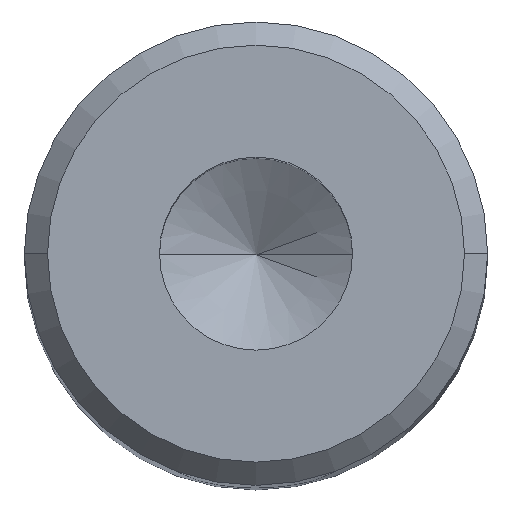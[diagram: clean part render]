
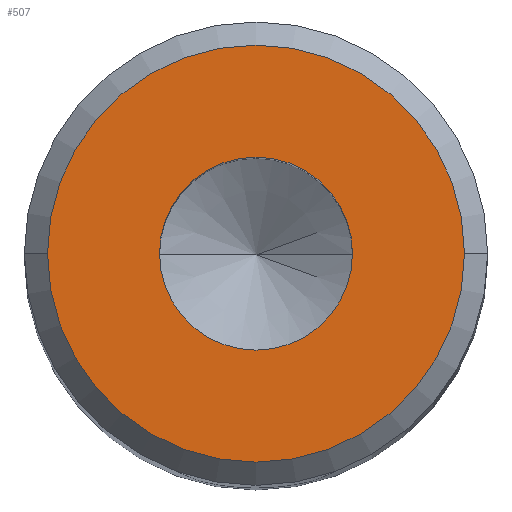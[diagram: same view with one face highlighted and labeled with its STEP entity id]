
A CAD part, top view. The second image highlights one B-rep face of the part: STEP entity #507.
In plain terms, the highlighted planar face has unit normal (0, 0, 1).
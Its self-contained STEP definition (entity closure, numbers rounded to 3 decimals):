
#30 = ORIENTED_EDGE ( 'NONE', *, *, #435, .F. ) ;
#61 = FACE_OUTER_BOUND ( 'NONE', #156, .T. ) ;
#75 = ORIENTED_EDGE ( 'NONE', *, *, #504, .F. ) ;
#82 = CARTESIAN_POINT ( 'NONE',  ( 0., 0., 35. ) ) ;
#84 = DIRECTION ( 'NONE',  ( 1., 0., 0. ) ) ;
#100 = EDGE_LOOP ( 'NONE', ( #75, #30 ) ) ;
#113 = CARTESIAN_POINT ( 'NONE',  ( -1.25, 0., 35. ) ) ;
#156 = EDGE_LOOP ( 'NONE', ( #412, #180 ) ) ;
#180 = ORIENTED_EDGE ( 'NONE', *, *, #245, .T. ) ;
#186 = FACE_BOUND ( 'NONE', #100, .T. ) ;
#200 = DIRECTION ( 'NONE',  ( 0., 0., 1. ) ) ;
#209 = VERTEX_POINT ( 'NONE', #113 ) ;
#218 = DIRECTION ( 'NONE',  ( 0., 0., 1. ) ) ;
#224 = DIRECTION ( 'NONE',  ( 0., 0., 1. ) ) ;
#245 = EDGE_CURVE ( 'NONE', #499, #578, #253, .T. ) ;
#249 = CARTESIAN_POINT ( 'NONE',  ( 0., 0., 35. ) ) ;
#252 = CARTESIAN_POINT ( 'NONE',  ( 0., 0., 35. ) ) ;
#253 = CIRCLE ( 'NONE', #327, 2.7 ) ;
#261 = DIRECTION ( 'NONE',  ( 0., 0., 1. ) ) ;
#274 = DIRECTION ( 'NONE',  ( 1., 0., 0. ) ) ;
#275 = CIRCLE ( 'NONE', #509, 1.25 ) ;
#286 = CIRCLE ( 'NONE', #478, 2.7 ) ;
#299 = CARTESIAN_POINT ( 'NONE',  ( 1.25, 0., 35. ) ) ;
#314 = CARTESIAN_POINT ( 'NONE',  ( 2.7, 0., 35. ) ) ;
#316 = PLANE ( 'NONE',  #476 ) ;
#327 = AXIS2_PLACEMENT_3D ( 'NONE', #358, #261, #452 ) ;
#344 = DIRECTION ( 'NONE',  ( 1., 0., 0. ) ) ;
#347 = AXIS2_PLACEMENT_3D ( 'NONE', #252, #200, #349 ) ;
#349 = DIRECTION ( 'NONE',  ( 1., 0., 0. ) ) ;
#358 = CARTESIAN_POINT ( 'NONE',  ( 0., 0., 35. ) ) ;
#412 = ORIENTED_EDGE ( 'NONE', *, *, #473, .T. ) ;
#435 = EDGE_CURVE ( 'NONE', #209, #474, #441, .T. ) ;
#441 = CIRCLE ( 'NONE', #347, 1.25 ) ;
#452 = DIRECTION ( 'NONE',  ( 1., 0., 0. ) ) ;
#457 = CARTESIAN_POINT ( 'NONE',  ( -2.7, 0., 35. ) ) ;
#473 = EDGE_CURVE ( 'NONE', #578, #499, #286, .T. ) ;
#474 = VERTEX_POINT ( 'NONE', #299 ) ;
#476 = AXIS2_PLACEMENT_3D ( 'NONE', #82, #224, #274 ) ;
#478 = AXIS2_PLACEMENT_3D ( 'NONE', #249, #573, #344 ) ;
#499 = VERTEX_POINT ( 'NONE', #314 ) ;
#504 = EDGE_CURVE ( 'NONE', #474, #209, #275, .T. ) ;
#507 = ADVANCED_FACE ( 'NONE', ( #61, #186 ), #316, .T. ) ;
#509 = AXIS2_PLACEMENT_3D ( 'NONE', #547, #218, #84 ) ;
#547 = CARTESIAN_POINT ( 'NONE',  ( 0., 0., 35. ) ) ;
#573 = DIRECTION ( 'NONE',  ( 0., 0., 1. ) ) ;
#578 = VERTEX_POINT ( 'NONE', #457 ) ;
